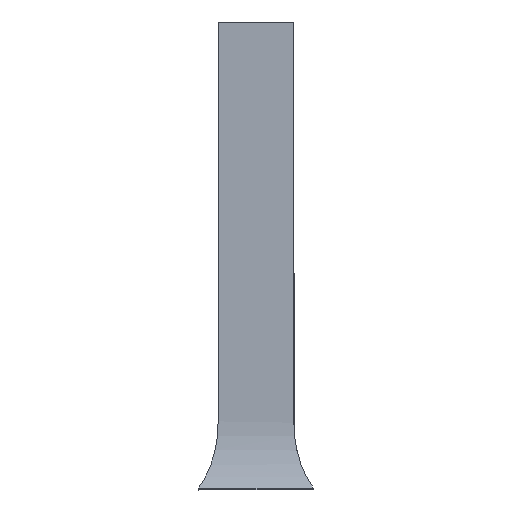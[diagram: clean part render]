
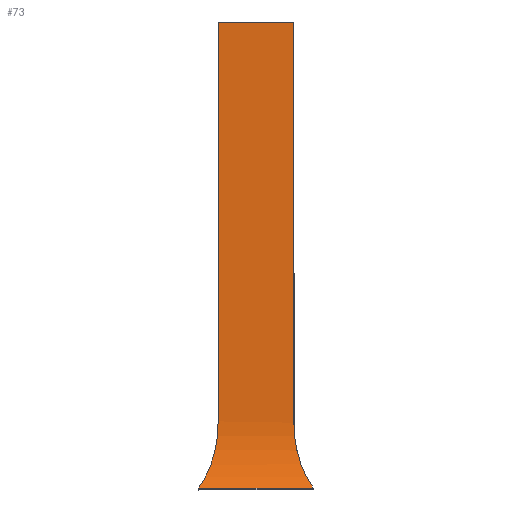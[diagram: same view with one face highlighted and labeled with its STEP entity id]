
A CAD part, left-side view. The second image highlights one B-rep face of the part: STEP entity #73.
In plain terms, the highlighted free-form (B-spline) face has degree [5, 1] with [21, 2] control points.
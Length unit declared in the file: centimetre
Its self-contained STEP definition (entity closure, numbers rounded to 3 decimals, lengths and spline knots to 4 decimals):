
#17=B_SPLINE_SURFACE_WITH_KNOTS($,5,1,((#3249,#3250),(#3251,#3252),(#3253,
#3254),(#3255,#3256),(#3257,#3258),(#3259,#3260),(#3261,#3262),(#3263,#3264),
(#3265,#3266),(#3267,#3268),(#3269,#3270),(#3271,#3272),(#3273,#3274),(#3275,
#3276),(#3277,#3278),(#3279,#3280),(#3281,#3282),(#3283,#3284),(#3285,#3286),
(#3287,#3288),(#3289,#3290)),.UNSPECIFIED.,.F.,.F.,.F.,(6,5,5,5,6),(2,2),
(0.,1749.4463,1749.5365,2065.3943,2065.3943),
(0.,500.),.UNSPECIFIED.);
#73=ADVANCED_FACE($,(#157),#17,.T.);
#157=FACE_OUTER_BOUND($,#241,.T.);
#241=EDGE_LOOP($,(#440,#441,#442,#443));
#440=ORIENTED_EDGE($,*,*,#739,.T.);
#441=ORIENTED_EDGE($,*,*,#730,.T.);
#442=ORIENTED_EDGE($,*,*,#728,.T.);
#443=ORIENTED_EDGE($,*,*,#725,.T.);
#725=EDGE_CURVE($,#876,#880,#1087,.T.);
#728=EDGE_CURVE($,#879,#876,#1090,.T.);
#730=EDGE_CURVE($,#881,#879,#1092,.T.);
#739=EDGE_CURVE($,#880,#881,#1101,.T.);
#876=VERTEX_POINT($,#4422);
#879=VERTEX_POINT($,#4425);
#880=VERTEX_POINT($,#4426);
#881=VERTEX_POINT($,#4427);
#1087=B_SPLINE_CURVE_WITH_KNOTS($,5,(#3023,#3024,#3025,#3026,#3027,#3028,
#3029,#3030,#3031,#3032,#3033,#3034,#3035,#3036,#3037,#3038),.UNSPECIFIED.,
.F.,.F.,(6,5,5,6),(0.,1749.4463,1749.5365,2065.3943),
.UNSPECIFIED.);
#1090=B_SPLINE_CURVE_WITH_KNOTS($,1,(#3047,#3048),.UNSPECIFIED.,.F.,.F.,
(2,2),(-500.,0.),.UNSPECIFIED.);
#1092=B_SPLINE_CURVE_WITH_KNOTS($,5,(#3060,#3061,#3062,#3063,#3064,#3065,
#3066,#3067,#3068,#3069,#3070,#3071,#3072,#3073,#3074,#3075,#3076,#3077,
#3078,#3079,#3080),.UNSPECIFIED.,.F.,.F.,(6,5,5,5,6),(-2065.3944,
-2065.3943,-1749.5365,-1749.4463,0.),.UNSPECIFIED.);
#1101=B_SPLINE_CURVE_WITH_KNOTS($,1,(#3247,#3248),.UNSPECIFIED.,.F.,.F.,
(2,2),(0.,500.),.UNSPECIFIED.);
#3023=CARTESIAN_POINT($,(8.5,41.5,204.));
#3024=CARTESIAN_POINT($,(8.4994,41.5,169.0742));
#3025=CARTESIAN_POINT($,(8.4988,41.5,134.1484));
#3026=CARTESIAN_POINT($,(8.4983,41.5,99.2225));
#3027=CARTESIAN_POINT($,(8.4977,41.5,64.2967));
#3028=CARTESIAN_POINT($,(8.4971,41.5,29.3709));
#3029=CARTESIAN_POINT($,(8.4971,41.5,29.3691));
#3030=CARTESIAN_POINT($,(8.4971,41.5,29.3673));
#3031=CARTESIAN_POINT($,(8.497,41.5,29.3655));
#3032=CARTESIAN_POINT($,(8.497,41.5,29.3637));
#3033=CARTESIAN_POINT($,(8.497,41.5,29.3619));
#3034=CARTESIAN_POINT($,(8.4321,41.5,23.0568));
#3035=CARTESIAN_POINT($,(7.4974,42.3721,16.7584));
#3036=CARTESIAN_POINT($,(5.6862,44.116,10.7976));
#3037=CARTESIAN_POINT($,(3.2559,46.6874,5.4698));
#3038=CARTESIAN_POINT($,(0.5178,50.,0.8553));
#3047=CARTESIAN_POINT($,(8.5,8.5,204.));
#3048=CARTESIAN_POINT($,(8.5,41.5,204.));
#3060=CARTESIAN_POINT($,(0.5178,0.,0.8553));
#3061=CARTESIAN_POINT($,(0.5178,0.,0.8553));
#3062=CARTESIAN_POINT($,(0.5178,0.,0.8553));
#3063=CARTESIAN_POINT($,(0.5178,0.,0.8553));
#3064=CARTESIAN_POINT($,(0.5178,0.,0.8553));
#3065=CARTESIAN_POINT($,(0.5178,0.,0.8553));
#3066=CARTESIAN_POINT($,(3.2559,3.3126,5.4698));
#3067=CARTESIAN_POINT($,(5.6862,5.884,10.7976));
#3068=CARTESIAN_POINT($,(7.4974,7.6279,16.7584));
#3069=CARTESIAN_POINT($,(8.4321,8.5,23.0568));
#3070=CARTESIAN_POINT($,(8.497,8.5,29.3619));
#3071=CARTESIAN_POINT($,(8.497,8.5,29.3637));
#3072=CARTESIAN_POINT($,(8.497,8.5,29.3655));
#3073=CARTESIAN_POINT($,(8.497,8.5,29.3673));
#3074=CARTESIAN_POINT($,(8.497,8.5,29.3691));
#3075=CARTESIAN_POINT($,(8.497,8.5,29.3709));
#3076=CARTESIAN_POINT($,(8.4976,8.5,64.2967));
#3077=CARTESIAN_POINT($,(8.4982,8.5,99.2225));
#3078=CARTESIAN_POINT($,(8.4988,8.5,134.1484));
#3079=CARTESIAN_POINT($,(8.4994,8.5,169.0742));
#3080=CARTESIAN_POINT($,(8.5,8.5,204.));
#3247=CARTESIAN_POINT($,(0.5178,50.,0.8553));
#3248=CARTESIAN_POINT($,(0.5178,0.,0.8553));
#3249=CARTESIAN_POINT($,(8.5,41.5,204.));
#3250=CARTESIAN_POINT($,(8.5,8.5,204.));
#3251=CARTESIAN_POINT($,(8.4994,41.5,169.0742));
#3252=CARTESIAN_POINT($,(8.4994,8.5,169.0742));
#3253=CARTESIAN_POINT($,(8.4988,41.5,134.1484));
#3254=CARTESIAN_POINT($,(8.4988,8.5,134.1484));
#3255=CARTESIAN_POINT($,(8.4983,41.5,99.2225));
#3256=CARTESIAN_POINT($,(8.4982,8.5,99.2225));
#3257=CARTESIAN_POINT($,(8.4977,41.5,64.2967));
#3258=CARTESIAN_POINT($,(8.4976,8.5,64.2967));
#3259=CARTESIAN_POINT($,(8.4971,41.5,29.3709));
#3260=CARTESIAN_POINT($,(8.497,8.5,29.3709));
#3261=CARTESIAN_POINT($,(8.4971,41.5,29.3691));
#3262=CARTESIAN_POINT($,(8.497,8.5,29.3691));
#3263=CARTESIAN_POINT($,(8.4971,41.5,29.3673));
#3264=CARTESIAN_POINT($,(8.497,8.5,29.3673));
#3265=CARTESIAN_POINT($,(8.497,41.5,29.3655));
#3266=CARTESIAN_POINT($,(8.497,8.5,29.3655));
#3267=CARTESIAN_POINT($,(8.497,41.5,29.3637));
#3268=CARTESIAN_POINT($,(8.497,8.5,29.3637));
#3269=CARTESIAN_POINT($,(8.497,41.5,29.3619));
#3270=CARTESIAN_POINT($,(8.497,8.5,29.3619));
#3271=CARTESIAN_POINT($,(8.4321,41.5,23.0568));
#3272=CARTESIAN_POINT($,(8.4321,8.5,23.0568));
#3273=CARTESIAN_POINT($,(7.4974,42.3721,16.7584));
#3274=CARTESIAN_POINT($,(7.4974,7.6279,16.7584));
#3275=CARTESIAN_POINT($,(5.6862,44.116,10.7976));
#3276=CARTESIAN_POINT($,(5.6862,5.884,10.7976));
#3277=CARTESIAN_POINT($,(3.2559,46.6874,5.4698));
#3278=CARTESIAN_POINT($,(3.2559,3.3126,5.4698));
#3279=CARTESIAN_POINT($,(0.5178,50.,0.8553));
#3280=CARTESIAN_POINT($,(0.5178,0.,0.8553));
#3281=CARTESIAN_POINT($,(0.5178,50.,0.8553));
#3282=CARTESIAN_POINT($,(0.5178,0.,0.8553));
#3283=CARTESIAN_POINT($,(0.5178,50.,0.8553));
#3284=CARTESIAN_POINT($,(0.5178,0.,0.8553));
#3285=CARTESIAN_POINT($,(0.5178,50.,0.8553));
#3286=CARTESIAN_POINT($,(0.5178,0.,0.8553));
#3287=CARTESIAN_POINT($,(0.5178,50.,0.8553));
#3288=CARTESIAN_POINT($,(0.5178,0.,0.8553));
#3289=CARTESIAN_POINT($,(0.5178,50.,0.8553));
#3290=CARTESIAN_POINT($,(0.5178,0.,0.8553));
#4422=CARTESIAN_POINT($,(8.5,41.5,204.));
#4425=CARTESIAN_POINT($,(8.5,8.5,204.));
#4426=CARTESIAN_POINT($,(0.5178,50.,0.8553));
#4427=CARTESIAN_POINT($,(0.5178,0.,0.8553));
